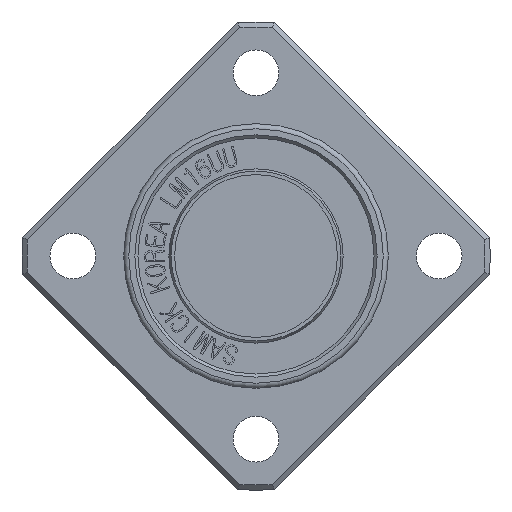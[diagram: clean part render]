
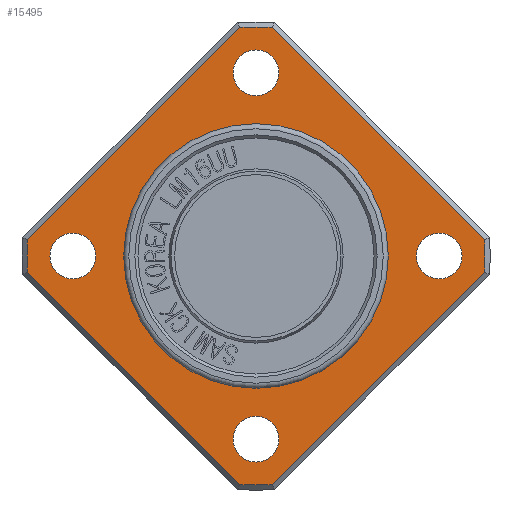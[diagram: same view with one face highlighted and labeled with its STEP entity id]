
A CAD part, front view. The second image highlights one B-rep face of the part: STEP entity #15495.
In plain terms, the highlighted planar face has unit normal (0, -1, 0).
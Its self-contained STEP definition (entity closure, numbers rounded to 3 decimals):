
#2194=FACE_BOUND('',#3220,.T.);
#2195=FACE_BOUND('',#3221,.T.);
#2196=FACE_BOUND('',#3222,.T.);
#2197=FACE_BOUND('',#3223,.T.);
#2198=FACE_BOUND('',#3224,.T.);
#2258=CIRCLE('',#16367,22.5);
#2262=CIRCLE('',#16377,22.5);
#2264=CIRCLE('',#16380,22.5);
#2265=CIRCLE('',#16381,22.5);
#2266=CIRCLE('',#16382,13.);
#2267=CIRCLE('',#16383,13.);
#2268=CIRCLE('',#16384,2.25);
#2269=CIRCLE('',#16385,2.25);
#2270=CIRCLE('',#16386,2.25);
#2271=CIRCLE('',#16387,2.25);
#2361=FACE_OUTER_BOUND('',#3219,.T.);
#3219=EDGE_LOOP('',(#10468,#10469,#10470,#10471,#10472,#10473,#10474,#10475));
#3220=EDGE_LOOP('',(#10476,#10477));
#3221=EDGE_LOOP('',(#10478));
#3222=EDGE_LOOP('',(#10479));
#3223=EDGE_LOOP('',(#10480));
#3224=EDGE_LOOP('',(#10481));
#4132=LINE('',#18564,#5266);
#4142=LINE('',#18612,#5276);
#4143=LINE('',#18623,#5277);
#4145=LINE('',#18640,#5279);
#5266=VECTOR('',#16720,10.);
#5276=VECTOR('',#16750,10.);
#5277=VECTOR('',#16753,10.);
#5279=VECTOR('',#16765,10.);
#6417=VERTEX_POINT('',#18559);
#6418=VERTEX_POINT('',#18563);
#6422=VERTEX_POINT('',#18577);
#6431=VERTEX_POINT('',#18611);
#6433=VERTEX_POINT('',#18618);
#6434=VERTEX_POINT('',#18622);
#6436=VERTEX_POINT('',#18630);
#6438=VERTEX_POINT('',#18638);
#6439=VERTEX_POINT('',#18642);
#6440=VERTEX_POINT('',#18643);
#6441=VERTEX_POINT('',#18646);
#6442=VERTEX_POINT('',#18648);
#6443=VERTEX_POINT('',#18650);
#6444=VERTEX_POINT('',#18652);
#8025=EDGE_CURVE('',#6417,#6418,#4132,.T.);
#8031=EDGE_CURVE('',#6422,#6418,#2258,.T.);
#8044=EDGE_CURVE('',#6422,#6431,#4142,.T.);
#8047=EDGE_CURVE('',#6433,#6434,#4143,.T.);
#8050=EDGE_CURVE('',#6436,#6434,#2262,.T.);
#8053=EDGE_CURVE('',#6417,#6438,#2264,.T.);
#8054=EDGE_CURVE('',#6436,#6438,#4145,.T.);
#8055=EDGE_CURVE('',#6433,#6431,#2265,.T.);
#8056=EDGE_CURVE('',#6439,#6440,#2266,.T.);
#8057=EDGE_CURVE('',#6440,#6439,#2267,.T.);
#8058=EDGE_CURVE('',#6441,#6441,#2268,.T.);
#8059=EDGE_CURVE('',#6442,#6442,#2269,.T.);
#8060=EDGE_CURVE('',#6443,#6443,#2270,.T.);
#8061=EDGE_CURVE('',#6444,#6444,#2271,.T.);
#10468=ORIENTED_EDGE('',*,*,#8025,.F.);
#10469=ORIENTED_EDGE('',*,*,#8053,.T.);
#10470=ORIENTED_EDGE('',*,*,#8054,.F.);
#10471=ORIENTED_EDGE('',*,*,#8050,.T.);
#10472=ORIENTED_EDGE('',*,*,#8047,.F.);
#10473=ORIENTED_EDGE('',*,*,#8055,.T.);
#10474=ORIENTED_EDGE('',*,*,#8044,.F.);
#10475=ORIENTED_EDGE('',*,*,#8031,.T.);
#10476=ORIENTED_EDGE('',*,*,#8056,.F.);
#10477=ORIENTED_EDGE('',*,*,#8057,.F.);
#10478=ORIENTED_EDGE('',*,*,#8058,.T.);
#10479=ORIENTED_EDGE('',*,*,#8059,.T.);
#10480=ORIENTED_EDGE('',*,*,#8060,.T.);
#10481=ORIENTED_EDGE('',*,*,#8061,.T.);
#15254=PLANE('',#16379);
#15495=ADVANCED_FACE('',(#2361,#2194,#2195,#2196,#2197,#2198),#15254,.T.);
#16367=AXIS2_PLACEMENT_3D('',#18578,#16729,#16730);
#16377=AXIS2_PLACEMENT_3D('',#18631,#16757,#16758);
#16379=AXIS2_PLACEMENT_3D('',#18637,#16761,#16762);
#16380=AXIS2_PLACEMENT_3D('',#18639,#16763,#16764);
#16381=AXIS2_PLACEMENT_3D('',#18641,#16766,#16767);
#16382=AXIS2_PLACEMENT_3D('',#18644,#16768,#16769);
#16383=AXIS2_PLACEMENT_3D('',#18645,#16770,#16771);
#16384=AXIS2_PLACEMENT_3D('',#18647,#16772,#16773);
#16385=AXIS2_PLACEMENT_3D('',#18649,#16774,#16775);
#16386=AXIS2_PLACEMENT_3D('',#18651,#16776,#16777);
#16387=AXIS2_PLACEMENT_3D('',#18653,#16778,#16779);
#16720=DIRECTION('',(-0.707,0.,-0.707));
#16729=DIRECTION('center_axis',(0.,-1.,0.));
#16730=DIRECTION('ref_axis',(1.,0.,0.));
#16750=DIRECTION('',(-0.707,0.,0.707));
#16753=DIRECTION('',(0.707,0.,0.707));
#16757=DIRECTION('center_axis',(0.,-1.,0.));
#16758=DIRECTION('ref_axis',(1.,0.,0.));
#16761=DIRECTION('center_axis',(0.,-1.,0.));
#16762=DIRECTION('ref_axis',(0.,0.,-1.));
#16763=DIRECTION('center_axis',(0.,-1.,0.));
#16764=DIRECTION('ref_axis',(1.,0.,0.));
#16765=DIRECTION('',(0.707,0.,-0.707));
#16766=DIRECTION('center_axis',(0.,-1.,0.));
#16767=DIRECTION('ref_axis',(1.,0.,0.));
#16768=DIRECTION('center_axis',(0.,-1.,0.));
#16769=DIRECTION('ref_axis',(1.,0.,0.));
#16770=DIRECTION('center_axis',(0.,-1.,0.));
#16771=DIRECTION('ref_axis',(1.,0.,0.));
#16772=DIRECTION('center_axis',(0.,1.,0.));
#16773=DIRECTION('ref_axis',(1.,0.,0.));
#16774=DIRECTION('center_axis',(0.,1.,0.));
#16775=DIRECTION('ref_axis',(0.,0.,
-1.));
#16776=DIRECTION('center_axis',(0.,1.,0.));
#16777=DIRECTION('ref_axis',(-1.,0.,0.));
#16778=DIRECTION('center_axis',(0.,1.,0.));
#16779=DIRECTION('ref_axis',(0.,0.,
1.));
#18559=CARTESIAN_POINT('',(22.443,29.,-1.598));
#18563=CARTESIAN_POINT('',(1.598,29.,-22.443));
#18564=CARTESIAN_POINT('',(9.994,29.,-14.048));
#18577=CARTESIAN_POINT('',(-1.598,29.,-22.443));
#18578=CARTESIAN_POINT('Origin',(0.,29.,0.));
#18611=CARTESIAN_POINT('',(-22.443,29.,-1.598));
#18612=CARTESIAN_POINT('',(-14.048,29.,-9.994));
#18618=CARTESIAN_POINT('',(-22.443,29.,1.598));
#18622=CARTESIAN_POINT('',(-1.598,29.,22.443));
#18623=CARTESIAN_POINT('',(-3.494,29.,20.548));
#18630=CARTESIAN_POINT('',(1.598,29.,22.443));
#18631=CARTESIAN_POINT('Origin',(0.,29.,0.));
#18637=CARTESIAN_POINT('Origin',(13.,29.,0.));
#18638=CARTESIAN_POINT('',(22.443,29.,1.598));
#18639=CARTESIAN_POINT('Origin',(0.,29.,0.));
#18640=CARTESIAN_POINT('',(20.548,29.,3.494));
#18641=CARTESIAN_POINT('Origin',(0.,29.,0.));
#18642=CARTESIAN_POINT('',(13.,29.,0.));
#18643=CARTESIAN_POINT('',(-13.,29.,0.));
#18644=CARTESIAN_POINT('Origin',(0.,29.,0.));
#18645=CARTESIAN_POINT('Origin',(0.,29.,0.));
#18646=CARTESIAN_POINT('',(15.75,29.,0.));
#18647=CARTESIAN_POINT('Origin',(18.,29.,0.));
#18648=CARTESIAN_POINT('',(0.,29.,-15.75));
#18649=CARTESIAN_POINT('Origin',(0.,29.,-18.));
#18650=CARTESIAN_POINT('',(-15.75,29.,0.));
#18651=CARTESIAN_POINT('Origin',(-18.,29.,0.));
#18652=CARTESIAN_POINT('',(0.,29.,15.75));
#18653=CARTESIAN_POINT('Origin',(0.,29.,18.));
